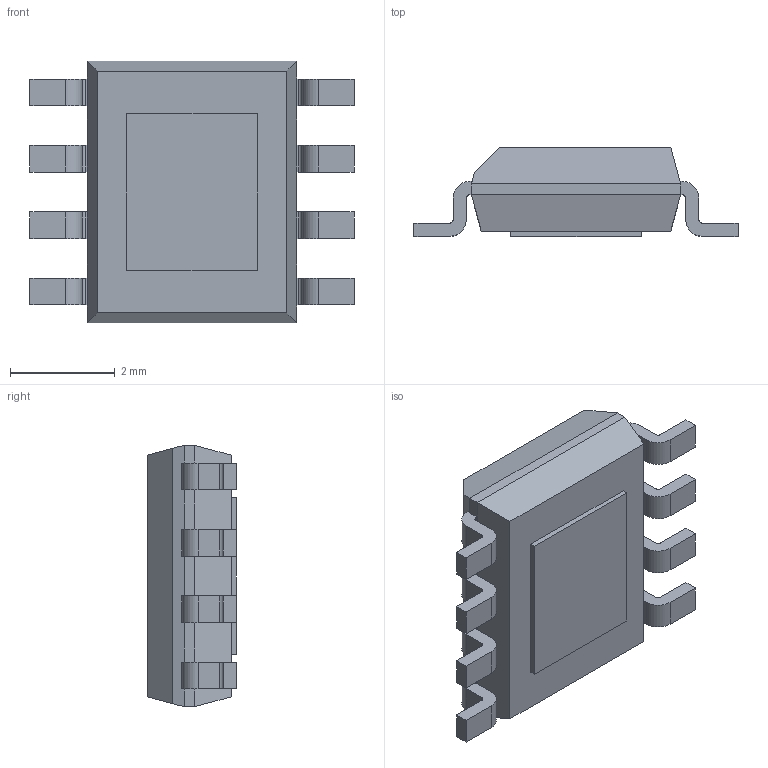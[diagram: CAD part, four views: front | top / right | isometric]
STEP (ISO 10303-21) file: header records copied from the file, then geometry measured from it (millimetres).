
FILE_DESCRIPTION (( 'STEP AP214' ), '1' );
FILE_NAME ('SO-8 (MS-012.BA).STEP', '2012-10-17T09:38:25', ( 'Tester2' ), ( '' ), 'SwSTEP 2.0', 'SolidWorks 2012', '' );
FILE_SCHEMA (( 'AUTOMOTIVE_DESIGN' ));
Length unit declared in the file: millimetre
Products named in the file (1): SO-8 (MS-012.BA)
Bounding box: 6.2 x 1.7 x 5 mm (x, y, z)
Volume: 31.8 mm3; surface area: 83.7 mm2
Topology: 1 solids, 1 shells, 135 faces, 369 edges, 238 vertices
Faces by surface type: plane 101, cylinder 34
Entity records: 5463 total; most frequent: CARTESIAN_POINT 743, ORIENTED_EDGE 738, DIRECTION 709, EDGE_CURVE 369, LINE 301, VECTOR 301, VERTEX_POINT 238, AXIS2_PLACEMENT_3D 204
